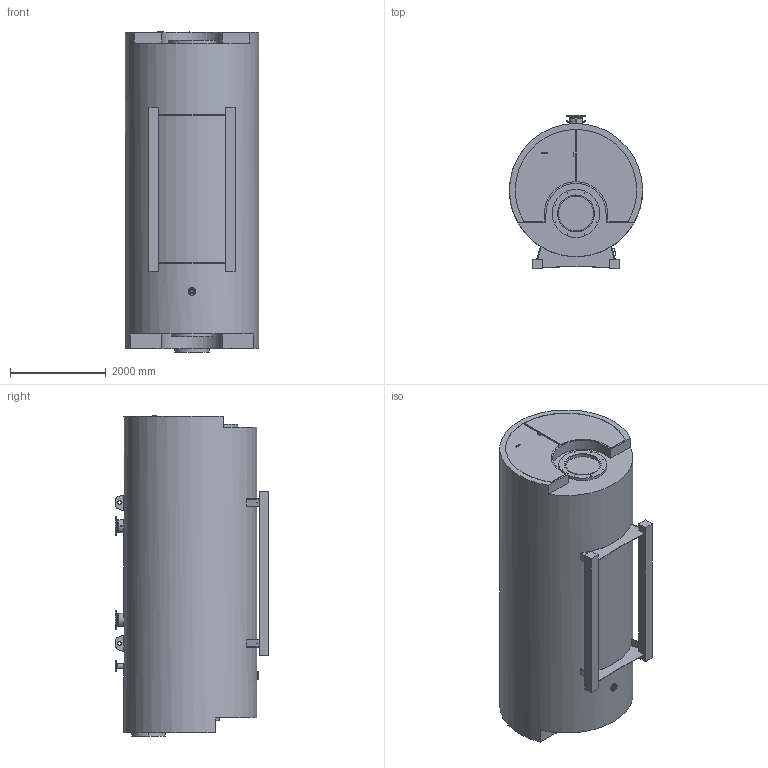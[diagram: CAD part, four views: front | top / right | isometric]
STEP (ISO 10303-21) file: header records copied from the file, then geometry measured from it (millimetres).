
FILE_DESCRIPTION(('TFLEX Exchange Step'),'2;1');
FILE_NAME('M62D009_RD_7550655_H001.stp', '2024-08-08T11:17:04+03:00',('kort'),('Unknown organisation'),'TFLEX Exchange 2024.2','T-FLEX CAD','Unknown authorisation');
FILE_SCHEMA( ('AP242_MANAGED_MODEL_BASED_3D_ENGINEERING_MIM_LF {1 0 10303 442 1 1 4 }') );
Length unit declared in the file: millimetre
Products named in the file (1): 7550655_Grundkessel M62D009_RD_H001
Bounding box: 2778.97 x 3205 x 6684.2 mm (x, y, z)
Volume: 39141486811 mm3; surface area: 79951944.9 mm2
Topology: 33 solids, 33 shells, 543 faces, 1423 edges, 984 vertices
Faces by surface type: plane 302, cylinder 144, bspline 78, torus 12, cone 7
Full cylindrical faces by diameter (mm): 2.2 x4, 3.2 x4, 3.3 x4, 4 x4, 6.5 x4, 13 x4, 14 x8, 18 x12, 18.63 x2, 26 x24, 26.9 x2, 28.9 x2, 54.5 x1, 80 x2, 102 x1, 103.1 x1, 107.1 x1, 114.3 x1, 158 x1, 161 x1, 165 x1, 220 x1, 257 x2, 260.4 x2, 273 x2, 320 x2, 405 x2, 860 x1, 1000 x1, 2779 x1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
Entity records: 25204 total; most frequent: CARTESIAN_POINT 11263, ORIENTED_EDGE 2846, DIRECTION 2599, EDGE_CURVE 1423, VERTEX_POINT 984, AXIS2_PLACEMENT_3D 896, VECTOR 807, LINE 807
